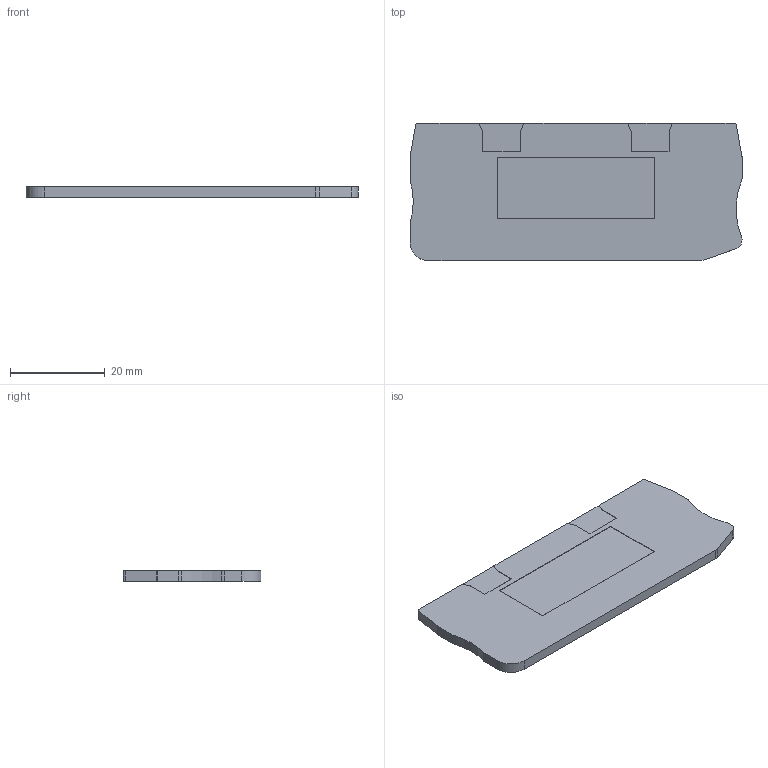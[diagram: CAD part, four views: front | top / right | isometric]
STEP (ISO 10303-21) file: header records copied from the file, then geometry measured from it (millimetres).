
FILE_DESCRIPTION(('SolidDesigner STEP Export'),'2;1');
FILE_NAME('3210196_D_PT_2.5_MTB-select.stp','2013-09-18T10:41:21',(''),(''),'Creo Elements/Direct Modeling STEP processor for AP214 (Solid Model)','Creo Elements/Direct Modeling 18.1 06-May-2012 (C) Parametric Technology GmbH','');
FILE_SCHEMA(('AUTOMOTIVE_DESIGN { 1 0 10303 214 1 1 1 1 }'));
Length unit declared in the file: millimetre
Products named in the file (2): 3210196_D_PT_2.5_MTB-select
Assembly tree (1 placements, depth 2):
  3210196_D_PT_2.5_MTB-select
    3210196_D_PT_2.5_MTB-select
Bounding box: 70.05 x 29.05 x 2.2 mm (x, y, z)
Volume: 4306.6 mm3; surface area: 4429.3 mm2
Topology: 1 solids, 1 shells, 54 faces, 153 edges, 102 vertices
Faces by surface type: plane 40, cylinder 14
Entity records: 2118 total; most frequent: ORIENTED_EDGE 306, CARTESIAN_POINT 297, DIRECTION 271, EDGE_CURVE 153, VECTOR 119, LINE 119, VERTEX_POINT 102, AXIS2_PLACEMENT_3D 76
